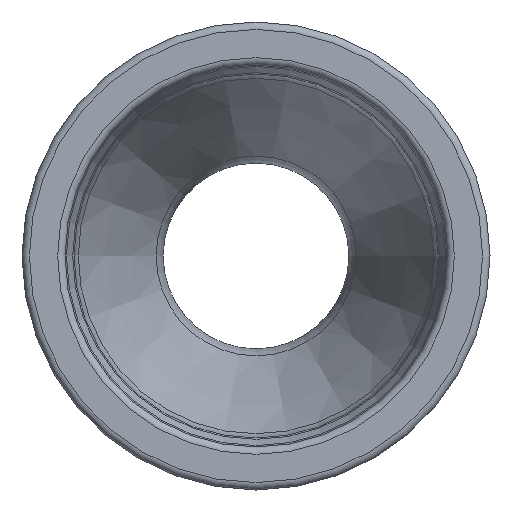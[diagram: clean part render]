
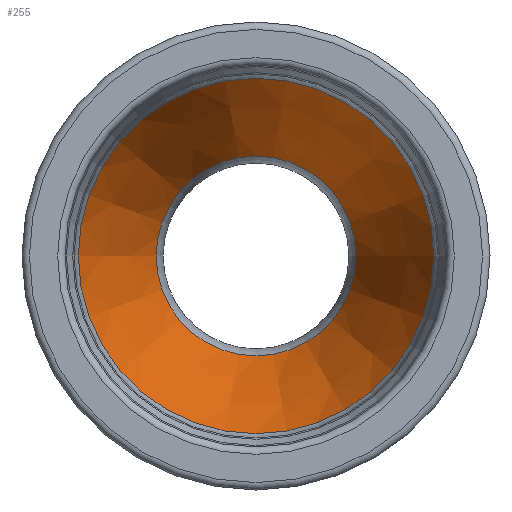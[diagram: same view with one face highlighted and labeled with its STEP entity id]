
A CAD part, left-side view. The second image highlights one B-rep face of the part: STEP entity #255.
In plain terms, the highlighted conical face has half-angle 21.886 degrees and reference radius 18.5 mm.
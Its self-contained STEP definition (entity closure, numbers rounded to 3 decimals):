
#24=CONICAL_SURFACE('',#294,18.5,21.886);
#37=FACE_BOUND('',#95,.T.);
#60=FACE_OUTER_BOUND('',#94,.T.);
#94=EDGE_LOOP('',(#209));
#95=EDGE_LOOP('',(#210));
#130=CIRCLE('',#293,13.437);
#131=CIRCLE('',#295,23.923);
#153=VERTEX_POINT('',#446);
#154=VERTEX_POINT('',#449);
#176=EDGE_CURVE('',#153,#153,#130,.T.);
#177=EDGE_CURVE('',#154,#154,#131,.T.);
#209=ORIENTED_EDGE('',*,*,#177,.F.);
#210=ORIENTED_EDGE('',*,*,#176,.F.);
#255=ADVANCED_FACE('',(#60,#37),#24,.F.);
#293=AXIS2_PLACEMENT_3D('',#447,#364,#365);
#294=AXIS2_PLACEMENT_3D('',#448,#366,#367);
#295=AXIS2_PLACEMENT_3D('',#450,#368,#369);
#364=DIRECTION('center_axis',(-1.,0.,0.));
#365=DIRECTION('ref_axis',(0.,-1.,0.));
#366=DIRECTION('center_axis',(-1.,0.,0.));
#367=DIRECTION('ref_axis',(0.,1.,0.));
#368=DIRECTION('center_axis',(1.,0.,0.));
#369=DIRECTION('ref_axis',(0.,-1.,0.));
#446=CARTESIAN_POINT('',(94.787,13.437,0.));
#447=CARTESIAN_POINT('Origin',(94.787,0.,0.));
#448=CARTESIAN_POINT('Origin',(82.183,0.,0.));
#449=CARTESIAN_POINT('',(68.682,23.923,0.));
#450=CARTESIAN_POINT('Origin',(68.682,0.,0.));
